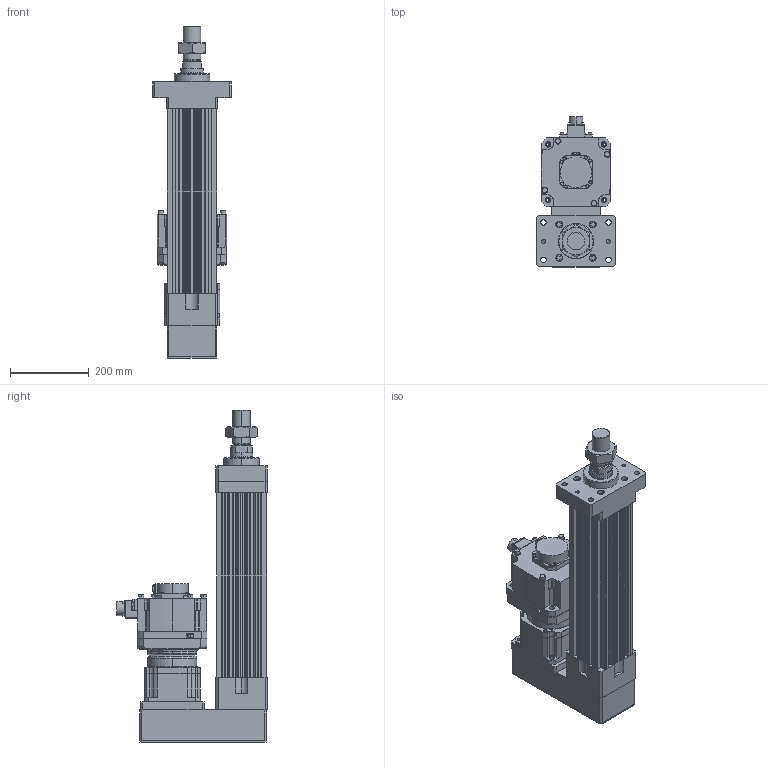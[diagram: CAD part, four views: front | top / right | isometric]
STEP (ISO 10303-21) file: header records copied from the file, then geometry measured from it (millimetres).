
FILE_DESCRIPTION (( 'STEP AP203' ), '1' );
FILE_NAME ('HES130FS(HS)-P250-W020G00-M-FMA.STEP', '2023-01-30T06:17:29', ( 'tms' ), ( '' ), 'SwSTEP 2.0', 'SolidWorks 2013', '' );
FILE_SCHEMA (( 'CONFIG_CONTROL_DESIGN' ));
Length unit declared in the file: millimetre
Products named in the file (9): AB142-003[HG-SR352]; HES130-P250-G142-FMA; AB1421; P1301500001; HES130FS(HS)-P250-W020G00-M-FMA; HG-SR202; P0403500801; M45X1.5P; HES130 ROD M ST250
Assembly tree (8 placements, depth 3):
  HES130FS(HS)-P250-W020G00-M-FMA
    HES130-P250-G142-FMA
    HES130 ROD M ST250
    M45X1.5P
    AB142-003[HG-SR352]
      AB1421
      P1301500001
      P0403500801
    HG-SR202
Bounding box: 200 x 381.85 x 844 mm (x, y, z)
Volume: 12486462 mm3; surface area: 1412436.4 mm2
Topology: 4 solids, 18 shells, 1401 faces, 3660 edges, 2370 vertices
Faces by surface type: cylinder 643, plane 530, cone 146, bspline 76, torus 6
Entity records: 52014 total; most frequent: CARTESIAN_POINT 16222, DIRECTION 7460, ORIENTED_EDGE 7222, EDGE_CURVE 3633, AXIS2_PLACEMENT_3D 2825, VERTEX_POINT 2370, VECTOR 1810, LINE 1810
